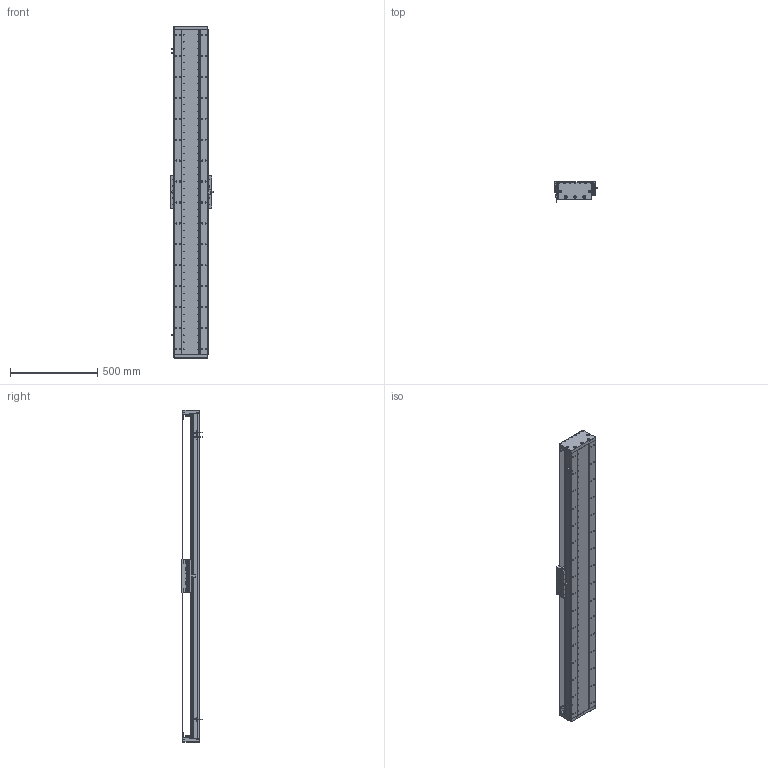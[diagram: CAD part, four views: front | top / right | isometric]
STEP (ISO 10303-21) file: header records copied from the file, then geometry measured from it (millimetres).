
FILE_DESCRIPTION (( 'STEP AP203' ), '1' );
FILE_NAME ('DA-C195-C2-T1620-C010-0.2 眻盄萇儂.STEP', '2025-08-15T01:07:18', ( '' ), ( '' ), 'SwSTEP 2.0', 'SolidWorks 2019', '' );
FILE_SCHEMA (( 'CONFIG_CONTROL_DESIGN' ));
Length unit declared in the file: millimetre
Products named in the file (15): LMT黍杅芛; DA195詩湍郪璃; DA195詩湍菜輸; DA95-HXJ-00 遣喳砎蝶; PM-T45ㄗ侂狟ㄘ; IU-CU195-L 菁釱絳寢; MS200 棠掑喜S315-T1740; DA195詩湍嶺輸; DA-C195-GD-DB-H-00 傷啣; 葩璃 DA95-GT-T-00; DA-C195-C2-T1620-C010-0.2 眻盄萇儂; IU-CU195-L-00 菁釱(L1860); DA165-GYP-00 光电感应片(默认); CU195-C2賑輸-俋楷; DA195詩湍裔啣
Assembly tree (29 placements, depth 3):
  DA-C195-C2-T1620-C010-0.2 眻盄萇儂
    DA195詩湍郪璃
      DA195詩湍菜輸  x2
      DA195詩湍裔啣
      DA195詩湍嶺輸  x2
      DA95-HXJ-00 遣喳砎蝶  x8
      DA-C195-GD-DB-H-00 傷啣  x2
    IU-CU195-L 菁釱絳寢
      IU-CU195-L-00 菁釱(L1860)
      葩璃 DA95-GT-T-00  x4
    LMT黍杅芛
    MS200 棠掑喜S315-T1740
    PM-T45ㄗ侂狟ㄘ  x3
    DA165-GYP-00 光电感应片(默认)
    CU195-C2賑輸-俋楷
Bounding box: 248 x 115.45 x 1900 mm (x, y, z)
Volume: 11422294.4 mm3; surface area: 3332680.3 mm2
Topology: 66 solids, 130 shells, 4094 faces, 11131 edges, 6967 vertices
Faces by surface type: cylinder 2087, plane 1389, cone 530, torus 52, sphere 36
Entity records: 125369 total; most frequent: CARTESIAN_POINT 32154, ORIENTED_EDGE 19146, DIRECTION 18976, EDGE_CURVE 9573, AXIS2_PLACEMENT_3D 7113, VERTEX_POINT 6169, LINE 4750, VECTOR 4750
